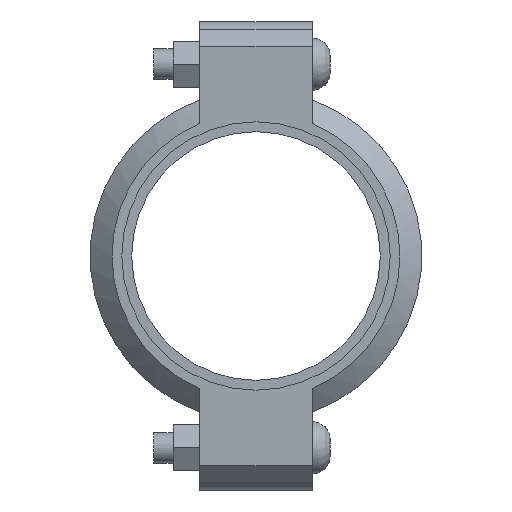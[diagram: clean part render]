
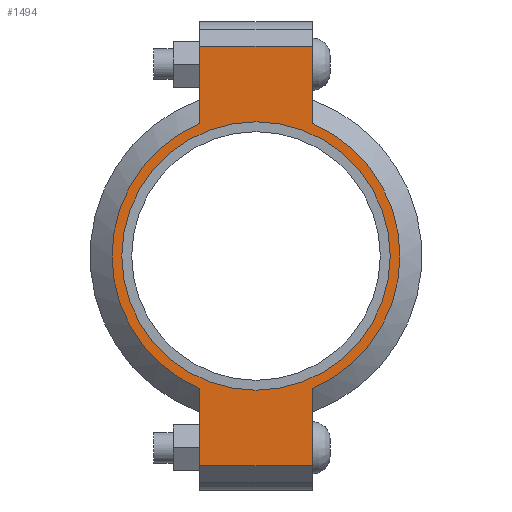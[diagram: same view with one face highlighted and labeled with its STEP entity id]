
A CAD part, left-side view. The second image highlights one B-rep face of the part: STEP entity #1494.
In plain terms, the highlighted planar face has unit normal (-1, 0, 0) as drawn and (0, 0, 1) by its records, which use the part's own axes.
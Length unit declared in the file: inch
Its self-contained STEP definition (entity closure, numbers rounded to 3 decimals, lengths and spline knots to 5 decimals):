
#118=LINE('',#2607,#211);
#126=LINE('',#2643,#219);
#133=LINE('',#2664,#226);
#142=LINE('',#2696,#235);
#143=LINE('',#2700,#236);
#144=LINE('',#2702,#237);
#211=VECTOR('',#2135,0.3937);
#219=VECTOR('',#2151,0.3937);
#226=VECTOR('',#2170,0.3937);
#235=VECTOR('',#2195,0.3937);
#236=VECTOR('',#2200,0.3937);
#237=VECTOR('',#2201,0.3937);
#293=FACE_BOUND('',#471,.T.);
#365=FACE_OUTER_BOUND('',#470,.T.);
#470=EDGE_LOOP('',(#1235,#1236,#1237,#1238,#1239,#1240,#1241,#1242));
#471=EDGE_LOOP('',(#1243));
#543=CIRCLE('',#1713,2.75);
#569=CIRCLE('',#1772,2.95);
#570=CIRCLE('',#1773,2.95);
#635=VERTEX_POINT('',#2423);
#678=VERTEX_POINT('',#2604);
#679=VERTEX_POINT('',#2606);
#690=VERTEX_POINT('',#2638);
#691=VERTEX_POINT('',#2642);
#698=VERTEX_POINT('',#2661);
#699=VERTEX_POINT('',#2663);
#709=VERTEX_POINT('',#2699);
#710=VERTEX_POINT('',#2701);
#791=EDGE_CURVE('',#635,#635,#543,.T.);
#852=EDGE_CURVE('',#679,#678,#118,.T.);
#866=EDGE_CURVE('',#691,#690,#126,.T.);
#876=EDGE_CURVE('',#699,#698,#133,.T.);
#891=EDGE_CURVE('',#691,#678,#142,.T.);
#892=EDGE_CURVE('',#690,#699,#569,.T.);
#893=EDGE_CURVE('',#709,#698,#143,.T.);
#894=EDGE_CURVE('',#709,#710,#144,.T.);
#895=EDGE_CURVE('',#710,#679,#570,.T.);
#1235=ORIENTED_EDGE('',*,*,#891,.F.);
#1236=ORIENTED_EDGE('',*,*,#866,.T.);
#1237=ORIENTED_EDGE('',*,*,#892,.T.);
#1238=ORIENTED_EDGE('',*,*,#876,.T.);
#1239=ORIENTED_EDGE('',*,*,#893,.F.);
#1240=ORIENTED_EDGE('',*,*,#894,.T.);
#1241=ORIENTED_EDGE('',*,*,#895,.T.);
#1242=ORIENTED_EDGE('',*,*,#852,.T.);
#1243=ORIENTED_EDGE('',*,*,#791,.T.);
#1336=PLANE('',#1771);
#1494=ADVANCED_FACE('',(#365,#293),#1336,.T.);
#1713=AXIS2_PLACEMENT_3D('',#2425,#2011,#2012);
#1771=AXIS2_PLACEMENT_3D('',#2697,#2196,#2197);
#1772=AXIS2_PLACEMENT_3D('',#2698,#2198,#2199);
#1773=AXIS2_PLACEMENT_3D('',#2703,#2202,#2203);
#2011=DIRECTION('center_axis',(0.,0.,-1.));
#2012=DIRECTION('ref_axis',(-1.,0.,0.));
#2135=DIRECTION('',(-1.,0.,0.));
#2151=DIRECTION('',(1.,0.,0.));
#2170=DIRECTION('',(1.,0.,0.));
#2195=DIRECTION('',(0.,1.,0.));
#2196=DIRECTION('center_axis',(0.,0.,1.));
#2197=DIRECTION('ref_axis',(1.,0.,0.));
#2198=DIRECTION('center_axis',(0.,0.,1.));
#2199=DIRECTION('ref_axis',(-1.,0.,0.));
#2200=DIRECTION('',(0.,-1.,0.));
#2201=DIRECTION('',(-1.,0.,0.));
#2202=DIRECTION('center_axis',(0.,0.,1.));
#2203=DIRECTION('ref_axis',(-1.,0.,0.));
#2423=CARTESIAN_POINT('',(2.75,0.,1.065));
#2425=CARTESIAN_POINT('Origin',(0.,0.,1.065));
#2604=CARTESIAN_POINT('',(-4.295,1.15,1.065));
#2606=CARTESIAN_POINT('',(-2.71662,1.15,1.065));
#2607=CARTESIAN_POINT('',(-4.795,1.15,1.065));
#2638=CARTESIAN_POINT('',(-2.71662,-1.15,1.065));
#2642=CARTESIAN_POINT('',(-4.295,-1.15,1.065));
#2643=CARTESIAN_POINT('',(4.795,-1.15,1.065));
#2661=CARTESIAN_POINT('',(4.295,-1.15,1.065));
#2663=CARTESIAN_POINT('',(2.71662,-1.15,1.065));
#2664=CARTESIAN_POINT('',(4.795,-1.15,1.065));
#2696=CARTESIAN_POINT('',(-4.295,0.575,1.065));
#2697=CARTESIAN_POINT('Origin',(0.,0.,1.065));
#2698=CARTESIAN_POINT('Origin',(0.,0.,1.065));
#2699=CARTESIAN_POINT('',(4.295,1.15,1.065));
#2700=CARTESIAN_POINT('',(4.295,-0.575,1.065));
#2701=CARTESIAN_POINT('',(2.71662,1.15,1.065));
#2702=CARTESIAN_POINT('',(-4.795,1.15,1.065));
#2703=CARTESIAN_POINT('Origin',(0.,0.,1.065));
